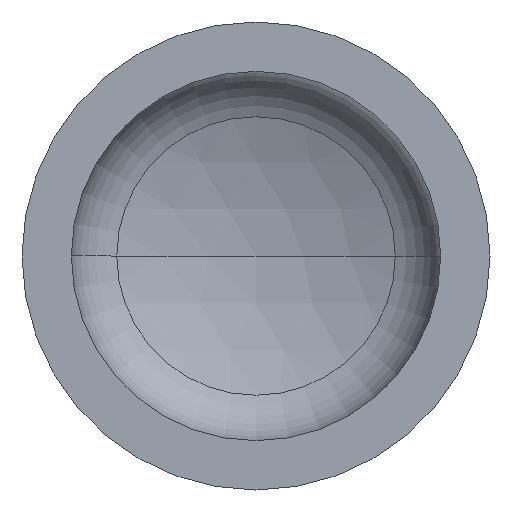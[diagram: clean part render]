
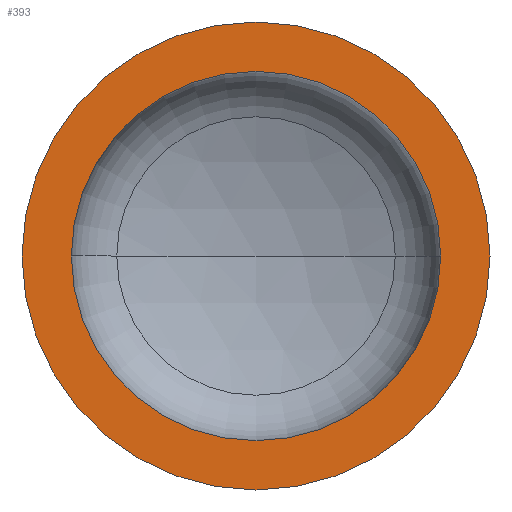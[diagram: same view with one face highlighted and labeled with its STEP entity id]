
A CAD part, front view. The second image highlights one B-rep face of the part: STEP entity #393.
In plain terms, the highlighted planar face has unit normal (0, -1, 0).
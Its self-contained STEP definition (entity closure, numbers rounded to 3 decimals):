
#7 = DIRECTION ( 'NONE',  ( 1., 0., 0. ) ) ;
#13 = EDGE_LOOP ( 'NONE', ( #98, #28 ) ) ;
#15 = VERTEX_POINT ( 'NONE', #256 ) ;
#28 = ORIENTED_EDGE ( 'NONE', *, *, #171, .T. ) ;
#32 = DIRECTION ( 'NONE',  ( 1., 0., 0. ) ) ;
#36 = ORIENTED_EDGE ( 'NONE', *, *, #172, .F. ) ;
#52 = EDGE_LOOP ( 'NONE', ( #36, #79 ) ) ;
#71 = VERTEX_POINT ( 'NONE', #240 ) ;
#77 = VERTEX_POINT ( 'NONE', #253 ) ;
#79 = ORIENTED_EDGE ( 'NONE', *, *, #409, .F. ) ;
#87 = AXIS2_PLACEMENT_3D ( 'NONE', #137, #140, #355 ) ;
#98 = ORIENTED_EDGE ( 'NONE', *, *, #314, .T. ) ;
#106 = VERTEX_POINT ( 'NONE', #329 ) ;
#109 = CARTESIAN_POINT ( 'NONE',  ( -550., 0., 0. ) ) ;
#111 = AXIS2_PLACEMENT_3D ( 'NONE', #176, #175, #32 ) ;
#115 = DIRECTION ( 'NONE',  ( -1., 0., 0. ) ) ;
#120 = AXIS2_PLACEMENT_3D ( 'NONE', #394, #264, #7 ) ;
#126 = AXIS2_PLACEMENT_3D ( 'NONE', #210, #194, #195 ) ;
#131 = AXIS2_PLACEMENT_3D ( 'NONE', #109, #284, #115 ) ;
#137 = CARTESIAN_POINT ( 'NONE',  ( 0., 0., 0. ) ) ;
#140 = DIRECTION ( 'NONE',  ( 0., -1., 0. ) ) ;
#171 = EDGE_CURVE ( 'NONE', #77, #15, #323, .T. ) ;
#172 = EDGE_CURVE ( 'NONE', #106, #71, #386, .T. ) ;
#175 = DIRECTION ( 'NONE',  ( 0., -1., 0. ) ) ;
#176 = CARTESIAN_POINT ( 'NONE',  ( 0., 0., 0. ) ) ;
#194 = DIRECTION ( 'NONE',  ( 0., -1., 0. ) ) ;
#195 = DIRECTION ( 'NONE',  ( 1., 0., 0. ) ) ;
#210 = CARTESIAN_POINT ( 'NONE',  ( 0., 0., 0. ) ) ;
#240 = CARTESIAN_POINT ( 'NONE',  ( -434., 0., 0. ) ) ;
#253 = CARTESIAN_POINT ( 'NONE',  ( -550., 0., 0. ) ) ;
#256 = CARTESIAN_POINT ( 'NONE',  ( 550., 0., 0. ) ) ;
#264 = DIRECTION ( 'NONE',  ( 0., -1., 0. ) ) ;
#265 = PLANE ( 'NONE',  #131 ) ;
#274 = CIRCLE ( 'NONE', #87, 434. ) ;
#282 = FACE_OUTER_BOUND ( 'NONE', #13, .T. ) ;
#284 = DIRECTION ( 'NONE',  ( 0., 1., 0. ) ) ;
#314 = EDGE_CURVE ( 'NONE', #15, #77, #365, .T. ) ;
#323 = CIRCLE ( 'NONE', #126, 550. ) ;
#329 = CARTESIAN_POINT ( 'NONE',  ( 434., 0., 0. ) ) ;
#355 = DIRECTION ( 'NONE',  ( 1., 0., 0. ) ) ;
#365 = CIRCLE ( 'NONE', #111, 550. ) ;
#386 = CIRCLE ( 'NONE', #120, 434. ) ;
#387 = FACE_BOUND ( 'NONE', #52, .T. ) ;
#393 = ADVANCED_FACE ( 'NONE', ( #387, #282 ), #265, .F. ) ;
#394 = CARTESIAN_POINT ( 'NONE',  ( 0., 0., 0. ) ) ;
#409 = EDGE_CURVE ( 'NONE', #71, #106, #274, .T. ) ;
